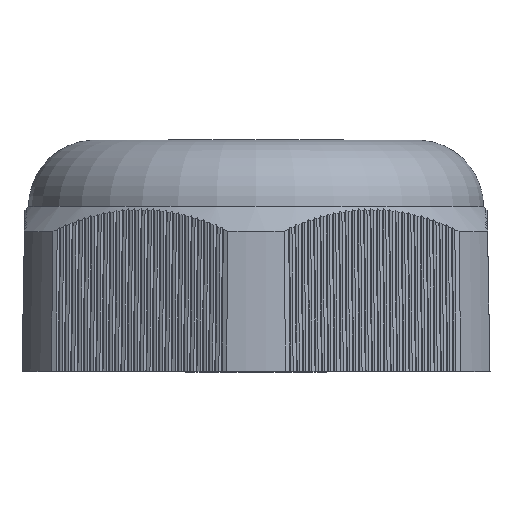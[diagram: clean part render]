
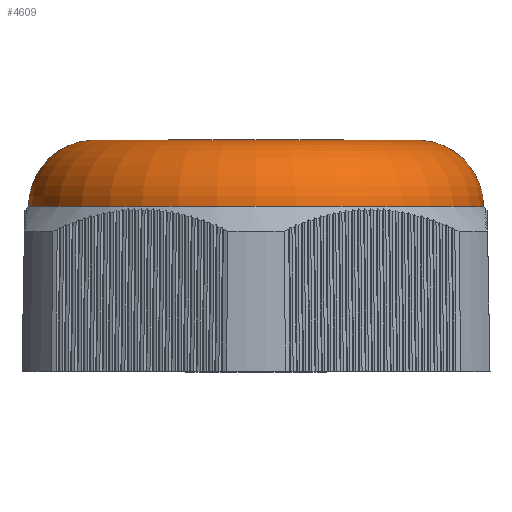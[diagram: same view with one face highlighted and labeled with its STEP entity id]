
A CAD part, top view. The second image highlights one B-rep face of the part: STEP entity #4609.
In plain terms, the highlighted toroidal (fillet/blend) face has major radius 22.25 mm and minor radius 9.2 mm.
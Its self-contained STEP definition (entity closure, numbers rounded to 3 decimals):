
#79 = FACE_OUTER_BOUND ( 'NONE', #18109, .T. ) ;
#346 = VERTEX_POINT ( 'NONE', #5139 ) ;
#2234 = DIRECTION ( 'NONE',  ( 0., 0., -1. ) ) ;
#2401 = CARTESIAN_POINT ( 'NONE',  ( 0., 22.8, 0. ) ) ;
#2704 = AXIS2_PLACEMENT_3D ( 'NONE', #6185, #16847, #3167 ) ;
#3167 = DIRECTION ( 'NONE',  ( 0., 0., -1. ) ) ;
#4609 = ADVANCED_FACE ( 'NONE', ( #79, #11034 ), #5900, .T. ) ;
#5139 = CARTESIAN_POINT ( 'NONE',  ( 0., 31.985, -22.779 ) ) ;
#5413 = DIRECTION ( 'NONE',  ( 0., 0., -1. ) ) ;
#5815 = CIRCLE ( 'NONE', #16959, 31.45 ) ;
#5849 = CIRCLE ( 'NONE', #15707, 22.779 ) ;
#5900 = TOROIDAL_SURFACE ( 'NONE', #2704, 22.25, 9.2 ) ;
#6185 = CARTESIAN_POINT ( 'NONE',  ( 0., 22.8, 0. ) ) ;
#6645 = VERTEX_POINT ( 'NONE', #7947 ) ;
#7947 = CARTESIAN_POINT ( 'NONE',  ( 0., 22.8, -31.45 ) ) ;
#9553 = ORIENTED_EDGE ( 'NONE', *, *, #11051, .T. ) ;
#11034 = FACE_OUTER_BOUND ( 'NONE', #11610, .T. ) ;
#11051 = EDGE_CURVE ( 'NONE', #346, #346, #5849, .T. ) ;
#11610 = EDGE_LOOP ( 'NONE', ( #12203 ) ) ;
#12203 = ORIENTED_EDGE ( 'NONE', *, *, #18930, .F. ) ;
#14119 = DIRECTION ( 'NONE',  ( 0., -1., 0. ) ) ;
#14876 = DIRECTION ( 'NONE',  ( 0., -1., 0. ) ) ;
#15707 = AXIS2_PLACEMENT_3D ( 'NONE', #17314, #14119, #2234 ) ;
#16847 = DIRECTION ( 'NONE',  ( 0., -1., 0. ) ) ;
#16959 = AXIS2_PLACEMENT_3D ( 'NONE', #2401, #14876, #5413 ) ;
#17314 = CARTESIAN_POINT ( 'NONE',  ( 0., 31.985, 0. ) ) ;
#18109 = EDGE_LOOP ( 'NONE', ( #9553 ) ) ;
#18930 = EDGE_CURVE ( 'NONE', #6645, #6645, #5815, .T. ) ;
